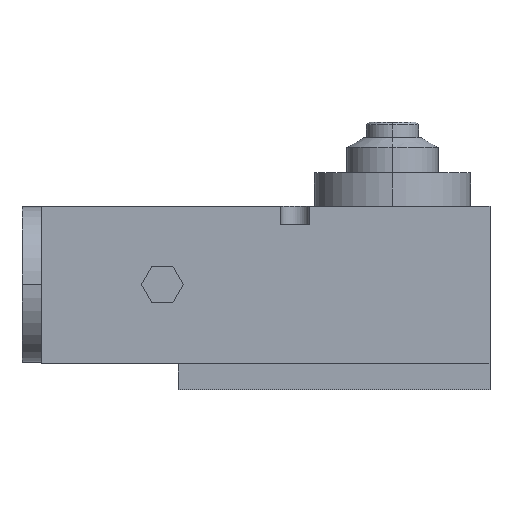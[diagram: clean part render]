
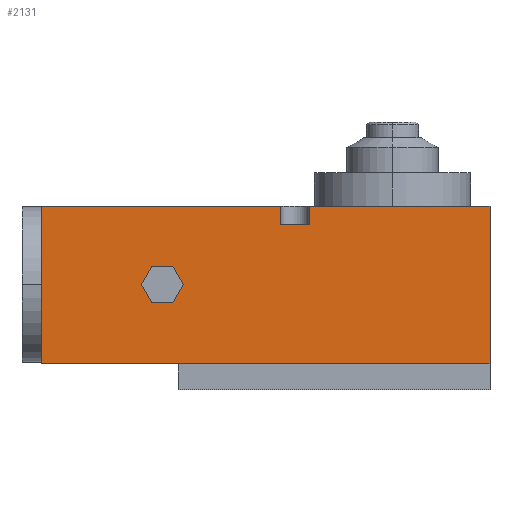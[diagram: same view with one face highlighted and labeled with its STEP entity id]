
A CAD part, top view. The second image highlights one B-rep face of the part: STEP entity #2131.
In plain terms, the highlighted planar face has unit normal (0, 0, 1).
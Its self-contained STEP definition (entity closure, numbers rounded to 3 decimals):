
#24 = VECTOR ( 'NONE', #338, 1000. ) ;
#102 = CARTESIAN_POINT ( 'NONE',  ( -9.5, 63.5, 30. ) ) ;
#114 = DIRECTION ( 'NONE',  ( -0.5, -0.866, 0. ) ) ;
#124 = DIRECTION ( 'NONE',  ( 1., 0., 0. ) ) ;
#126 = CARTESIAN_POINT ( 'NONE',  ( -70.041, 47.5, 30. ) ) ;
#142 = VECTOR ( 'NONE', #2093, 1000. ) ;
#154 = VERTEX_POINT ( 'NONE', #1788 ) ;
#199 = VERTEX_POINT ( 'NONE', #1053 ) ;
#207 = CARTESIAN_POINT ( 'NONE',  ( -112.5, 70.5, 30. ) ) ;
#208 = CARTESIAN_POINT ( 'NONE',  ( -61.959, 47.5, 30. ) ) ;
#210 = LINE ( 'NONE', #2433, #918 ) ;
#245 = VECTOR ( 'NONE', #114, 1000. ) ;
#259 = VERTEX_POINT ( 'NONE', #396 ) ;
#322 = VECTOR ( 'NONE', #543, 1000. ) ;
#330 = CARTESIAN_POINT ( 'NONE',  ( -57.917, 40.5, 30. ) ) ;
#331 = LINE ( 'NONE', #2807, #2686 ) ;
#334 = VERTEX_POINT ( 'NONE', #420 ) ;
#338 = DIRECTION ( 'NONE',  ( 0., -1., 0. ) ) ;
#396 = CARTESIAN_POINT ( 'NONE',  ( -61.959, 33.5, 30. ) ) ;
#406 = ORIENTED_EDGE ( 'NONE', *, *, #2051, .T. ) ;
#410 = ORIENTED_EDGE ( 'NONE', *, *, #617, .T. ) ;
#420 = CARTESIAN_POINT ( 'NONE',  ( -9.5, 70.5, 30. ) ) ;
#436 = VECTOR ( 'NONE', #2704, 1000. ) ;
#445 = LINE ( 'NONE', #207, #1889 ) ;
#477 = CARTESIAN_POINT ( 'NONE',  ( -20.5, 63.5, 30. ) ) ;
#543 = DIRECTION ( 'NONE',  ( 0., -1., 0. ) ) ;
#596 = EDGE_CURVE ( 'NONE', #2096, #2966, #1066, .T. ) ;
#617 = EDGE_CURVE ( 'NONE', #714, #1900, #2420, .T. ) ;
#621 = PLANE ( 'NONE',  #1600 ) ;
#678 = EDGE_CURVE ( 'NONE', #259, #2096, #1138, .T. ) ;
#705 = DIRECTION ( 'NONE',  ( 1., 0., 0. ) ) ;
#708 = ORIENTED_EDGE ( 'NONE', *, *, #2733, .F. ) ;
#714 = VERTEX_POINT ( 'NONE', #1340 ) ;
#818 = CARTESIAN_POINT ( 'NONE',  ( -57.917, 40.5, 30. ) ) ;
#848 = CARTESIAN_POINT ( 'NONE',  ( 22.5, 70.5, 30. ) ) ;
#853 = FACE_OUTER_BOUND ( 'NONE', #1304, .T. ) ;
#863 = DIRECTION ( 'NONE',  ( 0., 0., -1. ) ) ;
#868 = CARTESIAN_POINT ( 'NONE',  ( -20.5, 70.5, 30. ) ) ;
#896 = CARTESIAN_POINT ( 'NONE',  ( -70.041, 33.5, 30. ) ) ;
#918 = VECTOR ( 'NONE', #1466, 1000. ) ;
#1033 = VECTOR ( 'NONE', #124, 1000. ) ;
#1049 = DIRECTION ( 'NONE',  ( 0., -1., 0. ) ) ;
#1053 = CARTESIAN_POINT ( 'NONE',  ( -112.5, 70.5, 30. ) ) ;
#1066 = LINE ( 'NONE', #818, #436 ) ;
#1075 = DIRECTION ( 'NONE',  ( 0.5, -0.866, 0. ) ) ;
#1138 = LINE ( 'NONE', #1817, #2029 ) ;
#1149 = LINE ( 'NONE', #2537, #1033 ) ;
#1163 = ORIENTED_EDGE ( 'NONE', *, *, #2088, .T. ) ;
#1204 = ORIENTED_EDGE ( 'NONE', *, *, #1804, .F. ) ;
#1258 = CARTESIAN_POINT ( 'NONE',  ( -112.5, 70.5, 30. ) ) ;
#1263 = CARTESIAN_POINT ( 'NONE',  ( -112.5, 10., 30. ) ) ;
#1274 = CARTESIAN_POINT ( 'NONE',  ( -20.5, 63.5, 30. ) ) ;
#1282 = VECTOR ( 'NONE', #705, 1000. ) ;
#1285 = LINE ( 'NONE', #2297, #142 ) ;
#1304 = EDGE_LOOP ( 'NONE', ( #2207, #1381, #2655, #406, #1204, #2473, #410, #1163, #708, #1977 ) ) ;
#1309 = CARTESIAN_POINT ( 'NONE',  ( 60., 70.5, 30. ) ) ;
#1339 = CARTESIAN_POINT ( 'NONE',  ( -74.083, 40.5, 30. ) ) ;
#1340 = CARTESIAN_POINT ( 'NONE',  ( -112.5, 40.5, 30. ) ) ;
#1343 = EDGE_CURVE ( 'NONE', #154, #2238, #1434, .T. ) ;
#1381 = ORIENTED_EDGE ( 'NONE', *, *, #1596, .F. ) ;
#1434 = LINE ( 'NONE', #477, #1282 ) ;
#1466 = DIRECTION ( 'NONE',  ( -1., 0., 0. ) ) ;
#1472 = EDGE_CURVE ( 'NONE', #199, #714, #1722, .T. ) ;
#1596 = EDGE_CURVE ( 'NONE', #2238, #334, #2610, .T. ) ;
#1600 = AXIS2_PLACEMENT_3D ( 'NONE', #1790, #863, #1811 ) ;
#1671 = EDGE_CURVE ( 'NONE', #1814, #259, #1149, .T. ) ;
#1681 = EDGE_CURVE ( 'NONE', #2771, #1830, #331, .T. ) ;
#1689 = LINE ( 'NONE', #126, #245 ) ;
#1694 = LINE ( 'NONE', #1263, #2533 ) ;
#1722 = LINE ( 'NONE', #1258, #322 ) ;
#1734 = VERTEX_POINT ( 'NONE', #1339 ) ;
#1746 = CARTESIAN_POINT ( 'NONE',  ( -112.5, 70.5, 30. ) ) ;
#1764 = LINE ( 'NONE', #1309, #3088 ) ;
#1788 = CARTESIAN_POINT ( 'NONE',  ( -20.5, 63.5, 30. ) ) ;
#1790 = CARTESIAN_POINT ( 'NONE',  ( -112.5, 70.5, 30. ) ) ;
#1804 = EDGE_CURVE ( 'NONE', #199, #2893, #445, .T. ) ;
#1811 = DIRECTION ( 'NONE',  ( -1., 0., 0. ) ) ;
#1814 = VERTEX_POINT ( 'NONE', #896 ) ;
#1816 = VERTEX_POINT ( 'NONE', #2350 ) ;
#1817 = CARTESIAN_POINT ( 'NONE',  ( -61.959, 33.5, 30. ) ) ;
#1830 = VERTEX_POINT ( 'NONE', #2850 ) ;
#1858 = VERTEX_POINT ( 'NONE', #2081 ) ;
#1859 = EDGE_LOOP ( 'NONE', ( #2061, #2697, #2044, #2775, #2501, #2270 ) ) ;
#1881 = VECTOR ( 'NONE', #1075, 1000. ) ;
#1889 = VECTOR ( 'NONE', #2318, 1000. ) ;
#1900 = VERTEX_POINT ( 'NONE', #2880 ) ;
#1977 = ORIENTED_EDGE ( 'NONE', *, *, #1681, .F. ) ;
#1983 = DIRECTION ( 'NONE',  ( 1., 0., 0. ) ) ;
#1997 = LINE ( 'NONE', #1274, #2453 ) ;
#2006 = DIRECTION ( 'NONE',  ( 0., 1., 0. ) ) ;
#2029 = VECTOR ( 'NONE', #3003, 1000. ) ;
#2038 = VECTOR ( 'NONE', #2470, 1000. ) ;
#2044 = ORIENTED_EDGE ( 'NONE', *, *, #678, .F. ) ;
#2051 = EDGE_CURVE ( 'NONE', #154, #2893, #1997, .T. ) ;
#2061 = ORIENTED_EDGE ( 'NONE', *, *, #3061, .F. ) ;
#2063 = CARTESIAN_POINT ( 'NONE',  ( -9.5, 63.5, 30. ) ) ;
#2073 = LINE ( 'NONE', #2248, #1881 ) ;
#2081 = CARTESIAN_POINT ( 'NONE',  ( 60., 10., 30. ) ) ;
#2088 = EDGE_CURVE ( 'NONE', #1900, #1858, #1694, .T. ) ;
#2093 = DIRECTION ( 'NONE',  ( 1., 0., 0. ) ) ;
#2096 = VERTEX_POINT ( 'NONE', #330 ) ;
#2131 = ADVANCED_FACE ( 'NONE', ( #853, #2915 ), #621, .F. ) ;
#2207 = ORIENTED_EDGE ( 'NONE', *, *, #2798, .F. ) ;
#2238 = VERTEX_POINT ( 'NONE', #2063 ) ;
#2248 = CARTESIAN_POINT ( 'NONE',  ( -74.083, 40.5, 30. ) ) ;
#2270 = ORIENTED_EDGE ( 'NONE', *, *, #2663, .F. ) ;
#2297 = CARTESIAN_POINT ( 'NONE',  ( -112.5, 70.5, 30. ) ) ;
#2318 = DIRECTION ( 'NONE',  ( 1., 0., 0. ) ) ;
#2350 = CARTESIAN_POINT ( 'NONE',  ( -70.041, 47.5, 30. ) ) ;
#2420 = LINE ( 'NONE', #1746, #24 ) ;
#2433 = CARTESIAN_POINT ( 'NONE',  ( -61.959, 47.5, 30. ) ) ;
#2453 = VECTOR ( 'NONE', #2006, 1000. ) ;
#2470 = DIRECTION ( 'NONE',  ( 0., 1., 0. ) ) ;
#2473 = ORIENTED_EDGE ( 'NONE', *, *, #1472, .T. ) ;
#2501 = ORIENTED_EDGE ( 'NONE', *, *, #2653, .F. ) ;
#2533 = VECTOR ( 'NONE', #1983, 1000. ) ;
#2537 = CARTESIAN_POINT ( 'NONE',  ( -70.041, 33.5, 30. ) ) ;
#2610 = LINE ( 'NONE', #102, #2038 ) ;
#2653 = EDGE_CURVE ( 'NONE', #1734, #1814, #2073, .T. ) ;
#2655 = ORIENTED_EDGE ( 'NONE', *, *, #1343, .F. ) ;
#2663 = EDGE_CURVE ( 'NONE', #1816, #1734, #1689, .T. ) ;
#2686 = VECTOR ( 'NONE', #3023, 1000. ) ;
#2697 = ORIENTED_EDGE ( 'NONE', *, *, #596, .F. ) ;
#2704 = DIRECTION ( 'NONE',  ( -0.5, 0.866, 0. ) ) ;
#2733 = EDGE_CURVE ( 'NONE', #1830, #1858, #1764, .T. ) ;
#2771 = VERTEX_POINT ( 'NONE', #848 ) ;
#2775 = ORIENTED_EDGE ( 'NONE', *, *, #1671, .F. ) ;
#2798 = EDGE_CURVE ( 'NONE', #334, #2771, #1285, .T. ) ;
#2807 = CARTESIAN_POINT ( 'NONE',  ( -112.5, 70.5, 30. ) ) ;
#2850 = CARTESIAN_POINT ( 'NONE',  ( 60., 70.5, 30. ) ) ;
#2880 = CARTESIAN_POINT ( 'NONE',  ( -112.5, 10., 30. ) ) ;
#2893 = VERTEX_POINT ( 'NONE', #868 ) ;
#2915 = FACE_BOUND ( 'NONE', #1859, .T. ) ;
#2966 = VERTEX_POINT ( 'NONE', #208 ) ;
#3003 = DIRECTION ( 'NONE',  ( 0.5, 0.866, 0. ) ) ;
#3023 = DIRECTION ( 'NONE',  ( 1., 0., 0. ) ) ;
#3061 = EDGE_CURVE ( 'NONE', #2966, #1816, #210, .T. ) ;
#3088 = VECTOR ( 'NONE', #1049, 1000. ) ;
